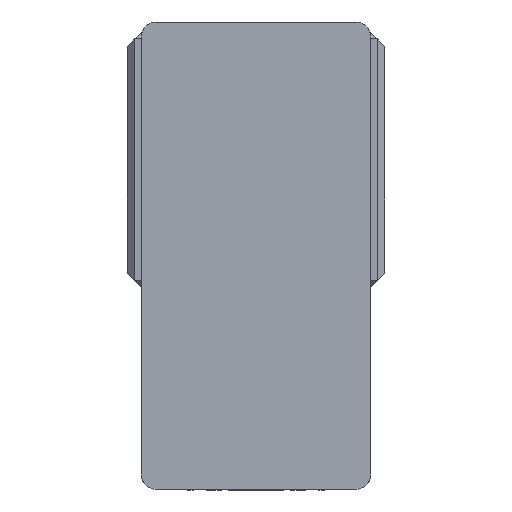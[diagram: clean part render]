
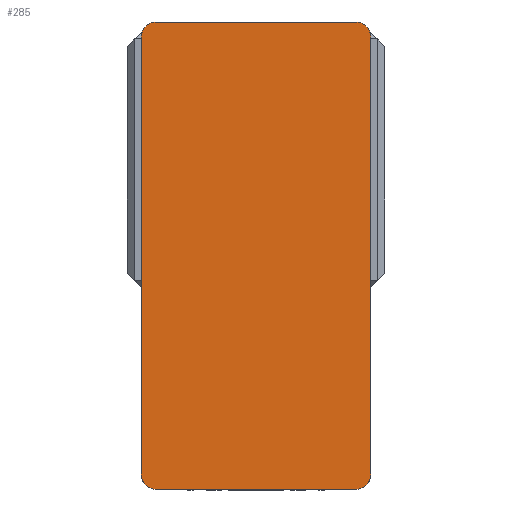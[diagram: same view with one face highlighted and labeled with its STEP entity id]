
A CAD part, left-side view. The second image highlights one B-rep face of the part: STEP entity #285.
In plain terms, the highlighted planar face has unit normal (-1, 0, 0) as drawn and (0, 0, 1) by its records, which use the part's own axes.
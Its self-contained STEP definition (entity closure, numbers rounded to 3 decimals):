
#139 = CARTESIAN_POINT ( 'NONE',  ( -65., 152.5, 105. ) ) ;
#285 = ADVANCED_FACE ( 'NONE', ( #3356 ), #8584, .T. ) ;
#295 = CARTESIAN_POINT ( 'NONE',  ( 75., -142.5, 105. ) ) ;
#405 = DIRECTION ( 'NONE',  ( 0., 0., 1. ) ) ;
#1556 = DIRECTION ( 'NONE',  ( 0., 1., 0. ) ) ;
#1582 = CIRCLE ( 'NONE', #5987, 10. ) ;
#1590 = CARTESIAN_POINT ( 'NONE',  ( -75., 152.5, 105. ) ) ;
#1790 = DIRECTION ( 'NONE',  ( 0., 0., 1. ) ) ;
#1847 = VECTOR ( 'NONE', #2344, 1000. ) ;
#1907 = ORIENTED_EDGE ( 'NONE', *, *, #9436, .T. ) ;
#2301 = AXIS2_PLACEMENT_3D ( 'NONE', #7058, #1790, #7926 ) ;
#2341 = VERTEX_POINT ( 'NONE', #139 ) ;
#2344 = DIRECTION ( 'NONE',  ( 0., -1., 0. ) ) ;
#2471 = CARTESIAN_POINT ( 'NONE',  ( 75., 152.5, 105. ) ) ;
#2477 = VERTEX_POINT ( 'NONE', #295 ) ;
#2620 = ORIENTED_EDGE ( 'NONE', *, *, #7877, .T. ) ;
#2856 = DIRECTION ( 'NONE',  ( 0., 0., 1. ) ) ;
#3057 = VERTEX_POINT ( 'NONE', #9990 ) ;
#3220 = LINE ( 'NONE', #7689, #5820 ) ;
#3356 = FACE_OUTER_BOUND ( 'NONE', #10358, .T. ) ;
#3806 = DIRECTION ( 'NONE',  ( 0., 0., 1. ) ) ;
#4076 = CIRCLE ( 'NONE', #2301, 10. ) ;
#4300 = VERTEX_POINT ( 'NONE', #7518 ) ;
#4824 = AXIS2_PLACEMENT_3D ( 'NONE', #8063, #2856, #8934 ) ;
#4838 = CARTESIAN_POINT ( 'NONE',  ( -75., -142.5, 105. ) ) ;
#4925 = CARTESIAN_POINT ( 'NONE',  ( 65., -152.5, 105. ) ) ;
#5066 = CARTESIAN_POINT ( 'NONE',  ( 0., 0., 105. ) ) ;
#5101 = EDGE_CURVE ( 'NONE', #3057, #5547, #11178, .T. ) ;
#5358 = EDGE_CURVE ( 'NONE', #2341, #3057, #6302, .T. ) ;
#5390 = ORIENTED_EDGE ( 'NONE', *, *, #10664, .T. ) ;
#5395 = EDGE_CURVE ( 'NONE', #5547, #9443, #1582, .T. ) ;
#5547 = VERTEX_POINT ( 'NONE', #4838 ) ;
#5577 = EDGE_CURVE ( 'NONE', #8055, #4300, #8986, .T. ) ;
#5736 = CARTESIAN_POINT ( 'NONE',  ( 65., 142.5, 105. ) ) ;
#5820 = VECTOR ( 'NONE', #6813, 1000. ) ;
#5987 = AXIS2_PLACEMENT_3D ( 'NONE', #8971, #3806, #9855 ) ;
#6302 = CIRCLE ( 'NONE', #4824, 10. ) ;
#6496 = VERTEX_POINT ( 'NONE', #4925 ) ;
#6497 = ORIENTED_EDGE ( 'NONE', *, *, #5395, .T. ) ;
#6608 = DIRECTION ( 'NONE',  ( 1., 0., 0. ) ) ;
#6813 = DIRECTION ( 'NONE',  ( 1., 0., 0. ) ) ;
#7058 = CARTESIAN_POINT ( 'NONE',  ( 65., -142.5, 105. ) ) ;
#7518 = CARTESIAN_POINT ( 'NONE',  ( 65., 152.5, 105. ) ) ;
#7584 = CARTESIAN_POINT ( 'NONE',  ( -75., 152.5, 105. ) ) ;
#7689 = CARTESIAN_POINT ( 'NONE',  ( -75., -152.5, 105. ) ) ;
#7816 = ORIENTED_EDGE ( 'NONE', *, *, #5577, .T. ) ;
#7877 = EDGE_CURVE ( 'NONE', #2477, #8055, #9103, .T. ) ;
#7926 = DIRECTION ( 'NONE',  ( 1., 0., 0. ) ) ;
#7963 = ORIENTED_EDGE ( 'NONE', *, *, #5101, .T. ) ;
#8055 = VERTEX_POINT ( 'NONE', #10480 ) ;
#8063 = CARTESIAN_POINT ( 'NONE',  ( -65., 142.5, 105. ) ) ;
#8211 = ORIENTED_EDGE ( 'NONE', *, *, #9571, .T. ) ;
#8582 = AXIS2_PLACEMENT_3D ( 'NONE', #5066, #11165, #11200 ) ;
#8584 = PLANE ( 'NONE',  #8582 ) ;
#8814 = VECTOR ( 'NONE', #1556, 1000. ) ;
#8934 = DIRECTION ( 'NONE',  ( 1., 0., 0. ) ) ;
#8971 = CARTESIAN_POINT ( 'NONE',  ( -65., -142.5, 105. ) ) ;
#8986 = CIRCLE ( 'NONE', #10623, 10. ) ;
#9103 = LINE ( 'NONE', #2471, #8814 ) ;
#9436 = EDGE_CURVE ( 'NONE', #4300, #2341, #10034, .T. ) ;
#9443 = VERTEX_POINT ( 'NONE', #11271 ) ;
#9444 = ORIENTED_EDGE ( 'NONE', *, *, #5358, .T. ) ;
#9571 = EDGE_CURVE ( 'NONE', #6496, #2477, #4076, .T. ) ;
#9756 = VECTOR ( 'NONE', #10369, 1000. ) ;
#9855 = DIRECTION ( 'NONE',  ( 1., 0., 0. ) ) ;
#9990 = CARTESIAN_POINT ( 'NONE',  ( -75., 142.5, 105. ) ) ;
#10034 = LINE ( 'NONE', #1590, #9756 ) ;
#10358 = EDGE_LOOP ( 'NONE', ( #5390, #8211, #2620, #7816, #1907, #9444, #7963, #6497 ) ) ;
#10369 = DIRECTION ( 'NONE',  ( -1., 0., 0. ) ) ;
#10480 = CARTESIAN_POINT ( 'NONE',  ( 75., 142.5, 105. ) ) ;
#10623 = AXIS2_PLACEMENT_3D ( 'NONE', #5736, #405, #6608 ) ;
#10664 = EDGE_CURVE ( 'NONE', #9443, #6496, #3220, .T. ) ;
#11165 = DIRECTION ( 'NONE',  ( 0., 0., 1. ) ) ;
#11178 = LINE ( 'NONE', #7584, #1847 ) ;
#11200 = DIRECTION ( 'NONE',  ( 1., 0., 0. ) ) ;
#11271 = CARTESIAN_POINT ( 'NONE',  ( -65., -152.5, 105. ) ) ;
